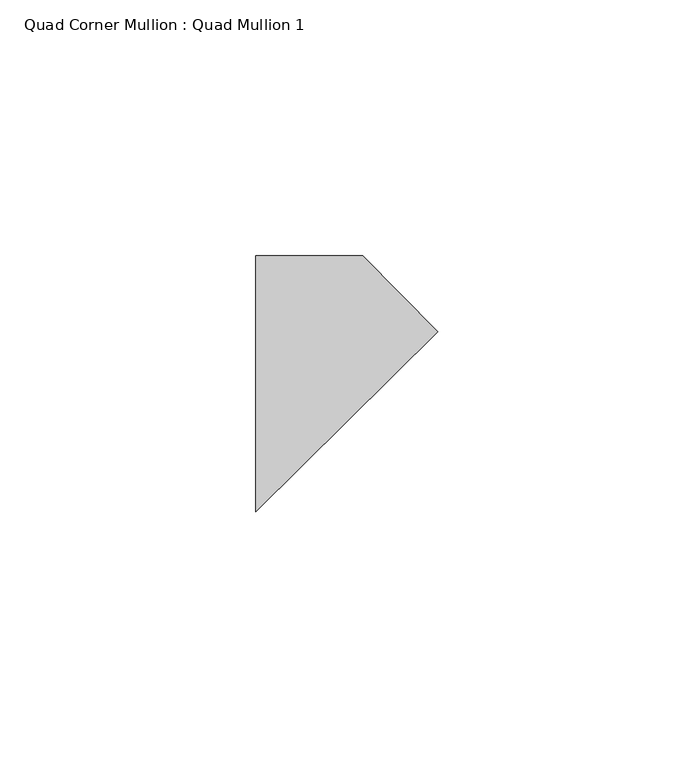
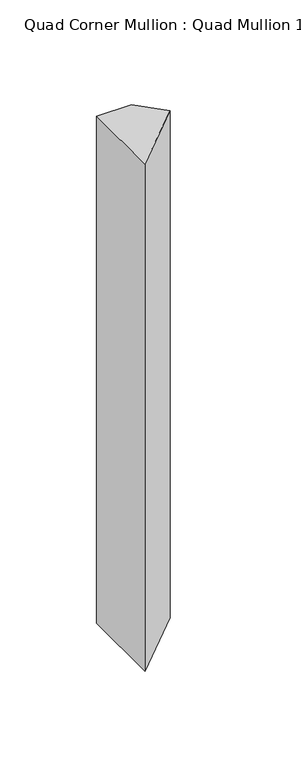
"""IFC4 building model written with IfcOpenShell, lengths in millimetres: member geometry, Quad Corner Mullion : Quad Mullion 1."""

from ifc_helpers import new_model, si_unit, frame, origin, place, context, project, spatial, polyline, outline, extrude, source, transform, mapped, element, save


def quad_corner_mullion_quad_mullion_1_f3f5b596(model_context):
    return source(origin(), model_context, "Body", "SweptSolid", [
        extrude(outline(polyline([(25.0929703, 10.1955497), (-10.4214391, -25.0), (-10.4214391, 25.0), (10.4214391, 25.0), (25.0929703, 10.1955497)])), frame((0.0, 0.0, -320.0), z_axis=(0.0, 0.0, 1.0), x_axis=(1.0, 0.0, 0.0)), (0.0, 0.0, 1.0), 320.0),
    ])


if __name__ == "__main__":
    model = new_model("IFC4")
    model_context = context("Model", 3, world=origin())
    ifc_project = project(units=[si_unit("LENGTHUNIT", "METRE", prefix="MILLI")], contexts=[model_context])
    site = spatial("IfcSite", under=ifc_project)
    building = spatial("IfcBuilding", under=site)
    placement = place(None, origin())
    quad_corner_mullion_quad_mullion_1_shape = quad_corner_mullion_quad_mullion_1_f3f5b596(model_context)
    element("IfcMember", 1, ObjectType="Quad Corner Mullion : Quad Mullion 1", at=placement, inside=building, context=model_context, shape_type="MappedRepresentation", body=[
        mapped(quad_corner_mullion_quad_mullion_1_shape, transform((0.0, 0.0, 0.0), x_axis=(1.0, 0.0, 0.0), y_axis=(0.0, 1.0, 0.0), z_axis=(0.0, 0.0, 1.0))),
    ])
    save(model, "model.ifc")
